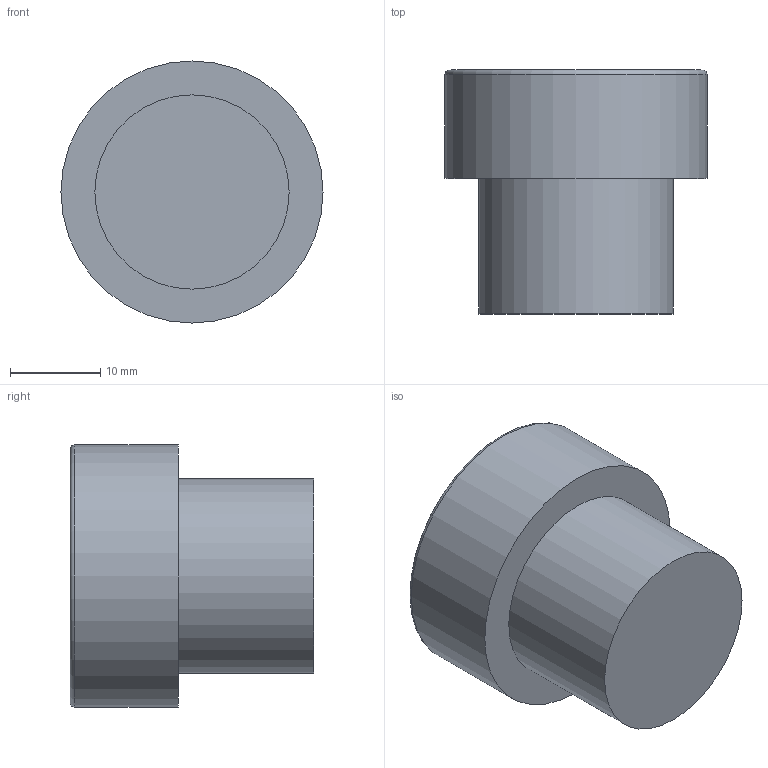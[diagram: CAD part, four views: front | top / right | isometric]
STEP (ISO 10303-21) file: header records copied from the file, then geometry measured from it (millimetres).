
FILE_DESCRIPTION(('FreeCAD Model'),'2;1');
FILE_NAME('Open CASCADE Shape Model','2023-05-06T18:44:57',('Author'),( ''),'Open CASCADE STEP processor 7.5','FreeCAD','Unknown');
FILE_SCHEMA(('AUTOMOTIVE_DESIGN { 1 0 10303 214 1 1 1 1 }'));
Length unit declared in the file: millimetre
Products named in the file (1): Button Push  green
Bounding box: 29 x 27 x 29 mm (x, y, z)
Volume: 13145 mm3; surface area: 5085 mm2
Topology: 1 solids, 1 shells, 12 faces, 20 edges, 13 vertices
Faces by surface type: plane 5, cylinder 4, torus 3
Full cylindrical faces by diameter (mm): 21.5 x1, 24.5 x1, 25 x1, 29 x1
Entity records: 323 total; most frequent: DIRECTION 48, CARTESIAN_POINT 35, AXIS2_PLACEMENT_3D 24, EDGE_LOOP 22, ORIENTED_EDGE 22, FACE_OUTER_BOUND 19, ADVANCED_FACE 12, EDGE_CURVE 11
